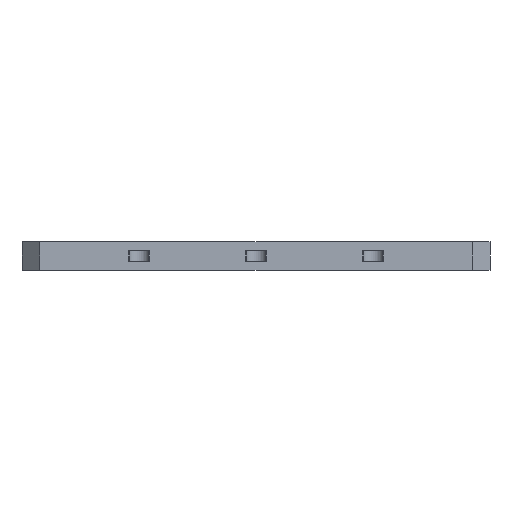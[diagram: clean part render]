
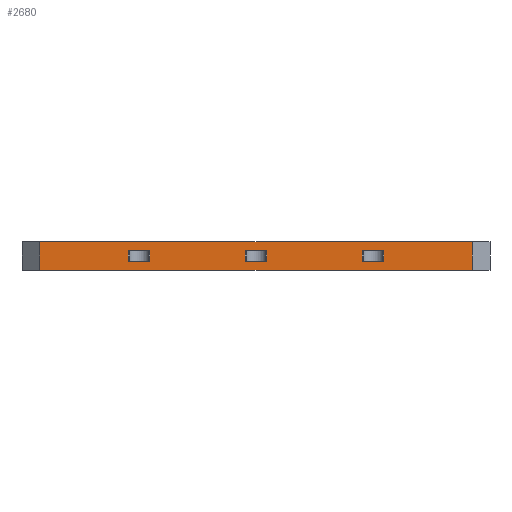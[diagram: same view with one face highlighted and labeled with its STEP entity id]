
A CAD part, left-side view. The second image highlights one B-rep face of the part: STEP entity #2680.
In plain terms, the highlighted planar face has unit normal (-1, 0, 0).
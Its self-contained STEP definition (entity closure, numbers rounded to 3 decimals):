
#90 = VERTEX_POINT('',#91);
#91 = CARTESIAN_POINT('',(1134.,-1306.2,0.));
#97 = EDGE_CURVE('',#90,#98,#100,.T.);
#98 = VERTEX_POINT('',#99);
#99 = CARTESIAN_POINT('',(1134.,-1409.8,0.));
#100 = LINE('',#101,#102);
#101 = CARTESIAN_POINT('',(1134.,-1306.2,0.));
#102 = VECTOR('',#103,1.);
#103 = DIRECTION('',(-0.,-1.,-0.));
#1265 = VERTEX_POINT('',#1266);
#1266 = CARTESIAN_POINT('',(1134.,-1306.2,6.8));
#1272 = EDGE_CURVE('',#1265,#1273,#1275,.T.);
#1273 = VERTEX_POINT('',#1274);
#1274 = CARTESIAN_POINT('',(1134.,-1409.8,6.8));
#1275 = LINE('',#1276,#1277);
#1276 = CARTESIAN_POINT('',(1134.,-1306.2,6.8));
#1277 = VECTOR('',#1278,1.);
#1278 = DIRECTION('',(-0.,-1.,-0.));
#2551 = EDGE_CURVE('',#1265,#90,#2552,.T.);
#2552 = LINE('',#2553,#2554);
#2553 = CARTESIAN_POINT('',(1134.,-1306.2,6.8));
#2554 = VECTOR('',#2555,1.);
#2555 = DIRECTION('',(0.,0.,-1.));
#2680 = ADVANCED_FACE('',(#2681,#2715,#2726,#2760),#2794,.F.);
#2681 = FACE_BOUND('',#2682,.T.);
#2682 = EDGE_LOOP('',(#2683,#2693,#2701,#2709));
#2683 = ORIENTED_EDGE('',*,*,#2684,.T.);
#2684 = EDGE_CURVE('',#2685,#2687,#2689,.T.);
#2685 = VERTEX_POINT('',#2686);
#2686 = CARTESIAN_POINT('',(1134.,-1327.433,4.6));
#2687 = VERTEX_POINT('',#2688);
#2688 = CARTESIAN_POINT('',(1134.,-1332.567,4.6));
#2689 = LINE('',#2690,#2691);
#2690 = CARTESIAN_POINT('',(1134.,-1327.433,4.6));
#2691 = VECTOR('',#2692,1.);
#2692 = DIRECTION('',(-0.,-1.,-0.));
#2693 = ORIENTED_EDGE('',*,*,#2694,.F.);
#2694 = EDGE_CURVE('',#2695,#2687,#2697,.T.);
#2695 = VERTEX_POINT('',#2696);
#2696 = CARTESIAN_POINT('',(1134.,-1332.567,2.2));
#2697 = LINE('',#2698,#2699);
#2698 = CARTESIAN_POINT('',(1134.,-1332.567,2.2));
#2699 = VECTOR('',#2700,1.);
#2700 = DIRECTION('',(0.,0.,1.));
#2701 = ORIENTED_EDGE('',*,*,#2702,.F.);
#2702 = EDGE_CURVE('',#2703,#2695,#2705,.T.);
#2703 = VERTEX_POINT('',#2704);
#2704 = CARTESIAN_POINT('',(1134.,-1327.433,2.2));
#2705 = LINE('',#2706,#2707);
#2706 = CARTESIAN_POINT('',(1134.,-1327.433,2.2));
#2707 = VECTOR('',#2708,1.);
#2708 = DIRECTION('',(0.,-1.,0.));
#2709 = ORIENTED_EDGE('',*,*,#2710,.F.);
#2710 = EDGE_CURVE('',#2685,#2703,#2711,.T.);
#2711 = LINE('',#2712,#2713);
#2712 = CARTESIAN_POINT('',(1134.,-1327.433,4.6));
#2713 = VECTOR('',#2714,1.);
#2714 = DIRECTION('',(0.,0.,-1.));
#2715 = FACE_BOUND('',#2716,.T.);
#2716 = EDGE_LOOP('',(#2717,#2723,#2724,#2725));
#2717 = ORIENTED_EDGE('',*,*,#2718,.T.);
#2718 = EDGE_CURVE('',#98,#1273,#2719,.T.);
#2719 = LINE('',#2720,#2721);
#2720 = CARTESIAN_POINT('',(1134.,-1409.8,0.));
#2721 = VECTOR('',#2722,1.);
#2722 = DIRECTION('',(0.,0.,1.));
#2723 = ORIENTED_EDGE('',*,*,#1272,.F.);
#2724 = ORIENTED_EDGE('',*,*,#2551,.T.);
#2725 = ORIENTED_EDGE('',*,*,#97,.T.);
#2726 = FACE_BOUND('',#2727,.T.);
#2727 = EDGE_LOOP('',(#2728,#2738,#2746,#2754));
#2728 = ORIENTED_EDGE('',*,*,#2729,.T.);
#2729 = EDGE_CURVE('',#2730,#2732,#2734,.T.);
#2730 = VERTEX_POINT('',#2731);
#2731 = CARTESIAN_POINT('',(1134.,-1355.433,4.6));
#2732 = VERTEX_POINT('',#2733);
#2733 = CARTESIAN_POINT('',(1134.,-1360.567,4.6));
#2734 = LINE('',#2735,#2736);
#2735 = CARTESIAN_POINT('',(1134.,-1355.433,4.6));
#2736 = VECTOR('',#2737,1.);
#2737 = DIRECTION('',(-0.,-1.,-0.));
#2738 = ORIENTED_EDGE('',*,*,#2739,.F.);
#2739 = EDGE_CURVE('',#2740,#2732,#2742,.T.);
#2740 = VERTEX_POINT('',#2741);
#2741 = CARTESIAN_POINT('',(1134.,-1360.567,2.2));
#2742 = LINE('',#2743,#2744);
#2743 = CARTESIAN_POINT('',(1134.,-1360.567,2.2));
#2744 = VECTOR('',#2745,1.);
#2745 = DIRECTION('',(0.,0.,1.));
#2746 = ORIENTED_EDGE('',*,*,#2747,.F.);
#2747 = EDGE_CURVE('',#2748,#2740,#2750,.T.);
#2748 = VERTEX_POINT('',#2749);
#2749 = CARTESIAN_POINT('',(1134.,-1355.433,2.2));
#2750 = LINE('',#2751,#2752);
#2751 = CARTESIAN_POINT('',(1134.,-1355.433,2.2));
#2752 = VECTOR('',#2753,1.);
#2753 = DIRECTION('',(0.,-1.,0.));
#2754 = ORIENTED_EDGE('',*,*,#2755,.F.);
#2755 = EDGE_CURVE('',#2730,#2748,#2756,.T.);
#2756 = LINE('',#2757,#2758);
#2757 = CARTESIAN_POINT('',(1134.,-1355.433,4.6));
#2758 = VECTOR('',#2759,1.);
#2759 = DIRECTION('',(0.,0.,-1.));
#2760 = FACE_BOUND('',#2761,.T.);
#2761 = EDGE_LOOP('',(#2762,#2772,#2780,#2788));
#2762 = ORIENTED_EDGE('',*,*,#2763,.T.);
#2763 = EDGE_CURVE('',#2764,#2766,#2768,.T.);
#2764 = VERTEX_POINT('',#2765);
#2765 = CARTESIAN_POINT('',(1134.,-1383.433,4.6));
#2766 = VERTEX_POINT('',#2767);
#2767 = CARTESIAN_POINT('',(1134.,-1388.567,4.6));
#2768 = LINE('',#2769,#2770);
#2769 = CARTESIAN_POINT('',(1134.,-1383.433,4.6));
#2770 = VECTOR('',#2771,1.);
#2771 = DIRECTION('',(-0.,-1.,-0.));
#2772 = ORIENTED_EDGE('',*,*,#2773,.F.);
#2773 = EDGE_CURVE('',#2774,#2766,#2776,.T.);
#2774 = VERTEX_POINT('',#2775);
#2775 = CARTESIAN_POINT('',(1134.,-1388.567,2.2));
#2776 = LINE('',#2777,#2778);
#2777 = CARTESIAN_POINT('',(1134.,-1388.567,2.2));
#2778 = VECTOR('',#2779,1.);
#2779 = DIRECTION('',(0.,0.,1.));
#2780 = ORIENTED_EDGE('',*,*,#2781,.F.);
#2781 = EDGE_CURVE('',#2782,#2774,#2784,.T.);
#2782 = VERTEX_POINT('',#2783);
#2783 = CARTESIAN_POINT('',(1134.,-1383.433,2.2));
#2784 = LINE('',#2785,#2786);
#2785 = CARTESIAN_POINT('',(1134.,-1383.433,2.2));
#2786 = VECTOR('',#2787,1.);
#2787 = DIRECTION('',(0.,-1.,0.));
#2788 = ORIENTED_EDGE('',*,*,#2789,.F.);
#2789 = EDGE_CURVE('',#2764,#2782,#2790,.T.);
#2790 = LINE('',#2791,#2792);
#2791 = CARTESIAN_POINT('',(1134.,-1383.433,4.6));
#2792 = VECTOR('',#2793,1.);
#2793 = DIRECTION('',(0.,0.,-1.));
#2794 = PLANE('',#2795);
#2795 = AXIS2_PLACEMENT_3D('',#2796,#2797,#2798);
#2796 = CARTESIAN_POINT('',(1134.,-1323.962,6.8));
#2797 = DIRECTION('',(1.,0.,0.));
#2798 = DIRECTION('',(0.,0.,-1.));
